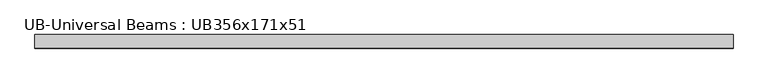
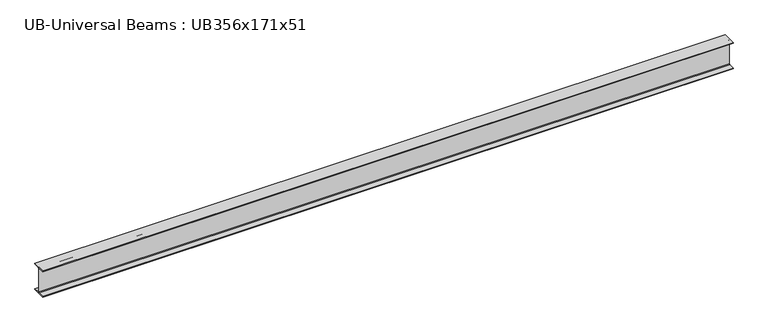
"""IFC4 building model written with IfcOpenShell, lengths in millimetres: beam geometry, UB-Universal Beams : UB356x171x51."""

from ifc_helpers import new_model, si_unit, point, frame, frame_2d, origin, place, context, project, spatial, polyline, circle_curve, trimmed, segment, composite_curve, outline, extrude, source, transform, mapped, element, save


def ub_universal_beams_ub356x171x51_d1a87c3c(model_context):
    return source(origin(), model_context, "Body", "SweptSolid", [
        extrude(outline(composite_curve([segment(polyline([(85.75, -166.0), (85.75, -177.5), (-85.75, -177.5), (-85.75, -166.0), (-13.9, -166.0)]), True, "CONTINUOUS"), segment(trimmed(circle_curve(frame_2d((-13.9, -155.8)), 10.2), [point((-13.9, -166.0))], [point((-3.7, -155.8))], True, "CARTESIAN"), True, "CONTINUOUS"), segment(polyline([(-3.7, -155.8), (-3.7, 155.8)]), True, "CONTINUOUS"), segment(trimmed(circle_curve(frame_2d((-13.9, 155.8)), 10.2), [point((-3.7, 155.8))], [point((-13.9, 166.0))], True, "CARTESIAN"), True, "CONTINUOUS"), segment(polyline([(-13.9, 166.0), (-85.75, 166.0), (-85.75, 177.5), (85.75, 177.5), (85.75, 166.0), (13.9, 166.0)]), True, "CONTINUOUS"), segment(trimmed(circle_curve(frame_2d((13.9, 155.8)), 10.2), [point((13.9, 166.0))], [point((3.7, 155.8))], True, "CARTESIAN"), True, "CONTINUOUS"), segment(polyline([(3.7, 155.8), (3.7, -155.8)]), True, "CONTINUOUS"), segment(trimmed(circle_curve(frame_2d((13.9, -155.8)), 10.2), [point((3.7, -155.8))], [point((13.9, -166.0))], True, "CARTESIAN"), True, "CONTINUOUS"), segment(polyline([(13.9, -166.0), (85.75, -166.0)]), True, "CONTINUOUS")], self_intersect=False)), frame((-4405.3, 0.0, 0.0), z_axis=(1.0, 0.0, 0.0), x_axis=(0.0, 1.0, 0.0)), (0.0, 0.0, 1.0), 8810.6),
    ])


if __name__ == "__main__":
    model = new_model("IFC4")
    model_context = context("Model", 3, world=origin())
    ifc_project = project(units=[si_unit("LENGTHUNIT", "METRE", prefix="MILLI")], contexts=[model_context])
    site = spatial("IfcSite", under=ifc_project)
    building = spatial("IfcBuilding", under=site)
    placement = place(None, origin())
    ub_universal_beams_ub356x171x51_shape = ub_universal_beams_ub356x171x51_d1a87c3c(model_context)
    element("IfcBeam", 1, ObjectType="UB-Universal Beams : UB356x171x51", at=placement, inside=building, context=model_context, shape_type="MappedRepresentation", body=[
        mapped(ub_universal_beams_ub356x171x51_shape, transform((0.0, 0.0, 0.0), x_axis=(1.0, 0.0, 0.0), y_axis=(0.0, 1.0, 0.0), z_axis=(0.0, 0.0, 1.0))),
    ])
    save(model, "model.ifc")
